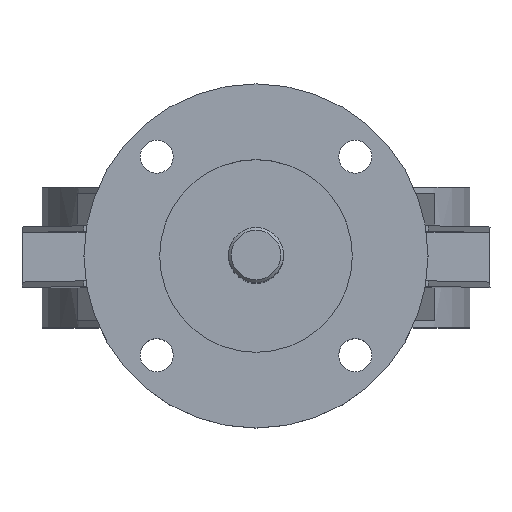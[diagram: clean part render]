
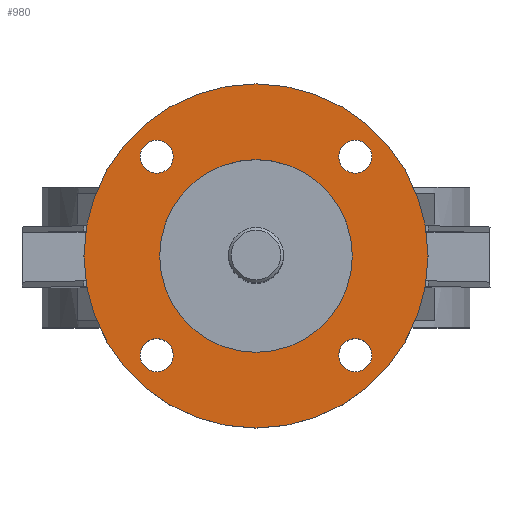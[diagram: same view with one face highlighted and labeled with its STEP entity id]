
A CAD part, top view. The second image highlights one B-rep face of the part: STEP entity #980.
In plain terms, the highlighted planar face has unit normal (0, 0, 1).
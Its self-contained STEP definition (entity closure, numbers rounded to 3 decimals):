
#980=ADVANCED_FACE('',(#2231,#2233,#2235,#2237,#2239,#2241),#2243,.T.);
#2231=FACE_BOUND('',#2232,.T.);
#2232=EDGE_LOOP('',(#3267));
#2233=FACE_BOUND('',#2234,.T.);
#2234=EDGE_LOOP('',(#3268));
#2235=FACE_BOUND('',#2236,.T.);
#2236=EDGE_LOOP('',(#3269));
#2237=FACE_BOUND('',#2238,.T.);
#2238=EDGE_LOOP('',(#3270));
#2239=FACE_BOUND('',#2240,.T.);
#2240=EDGE_LOOP('',(#3271));
#2241=FACE_BOUND('',#2242,.T.);
#2242=EDGE_LOOP('',(#3272));
#2243=PLANE('',#2244);
#2244=AXIS2_PLACEMENT_3D('',#2245,#2246,#2247);
#2245=CARTESIAN_POINT('',(0.,0.,378.));
#2246=DIRECTION('',(0.,0.,1.));
#2247=DIRECTION('',(-1.,0.,0.));
#3267=ORIENTED_EDGE('',*,*,#3683,.T.);
#3268=ORIENTED_EDGE('',*,*,#3684,.T.);
#3269=ORIENTED_EDGE('',*,*,#3685,.T.);
#3270=ORIENTED_EDGE('',*,*,#3686,.T.);
#3271=ORIENTED_EDGE('',*,*,#3807,.T.);
#3272=ORIENTED_EDGE('',*,*,#3687,.T.);
#3683=EDGE_CURVE('',#4259,#4259,#4260,.T.);
#3684=EDGE_CURVE('',#4261,#4261,#4262,.F.);
#3685=EDGE_CURVE('',#4263,#4263,#4264,.F.);
#3686=EDGE_CURVE('',#4265,#4265,#4266,.F.);
#3687=EDGE_CURVE('',#4267,#4267,#4268,.F.);
#3807=EDGE_CURVE('',#4474,#4474,#4475,.F.);
#4259=VERTEX_POINT('',#5477);
#4260=CIRCLE('',#5478,62.5);
#4261=VERTEX_POINT('',#5482);
#4262=CIRCLE('',#5483,6.);
#4263=VERTEX_POINT('',#5487);
#4264=CIRCLE('',#5488,6.);
#4265=VERTEX_POINT('',#5492);
#4266=CIRCLE('',#5493,6.);
#4267=VERTEX_POINT('',#5497);
#4268=CIRCLE('',#5498,6.);
#4474=VERTEX_POINT('',#6002);
#4475=CIRCLE('',#6003,35.);
#5477=CARTESIAN_POINT('',(-62.5,0.,378.));
#5478=AXIS2_PLACEMENT_3D('',#5479,#5480,#5481);
#5479=CARTESIAN_POINT('',(0.,0.,378.));
#5480=DIRECTION('',(0.,0.,1.));
#5481=DIRECTION('',(-1.,0.,0.));
#5482=CARTESIAN_POINT('',(-42.062,-36.062,378.));
#5483=AXIS2_PLACEMENT_3D('',#5484,#5485,#5486);
#5484=CARTESIAN_POINT('',(-36.062,-36.062,378.));
#5485=DIRECTION('',(0.,0.,1.));
#5486=DIRECTION('',(-1.,0.,0.));
#5487=CARTESIAN_POINT('',(36.062,-42.062,378.));
#5488=AXIS2_PLACEMENT_3D('',#5489,#5490,#5491);
#5489=CARTESIAN_POINT('',(36.062,-36.062,378.));
#5490=DIRECTION('',(0.,0.,1.));
#5491=DIRECTION('',(0.,-1.,0.));
#5492=CARTESIAN_POINT('',(42.062,36.062,378.));
#5493=AXIS2_PLACEMENT_3D('',#5494,#5495,#5496);
#5494=CARTESIAN_POINT('',(36.062,36.062,378.));
#5495=DIRECTION('',(0.,0.,1.));
#5496=DIRECTION('',(1.,0.,-0.));
#5497=CARTESIAN_POINT('',(-36.062,42.062,378.));
#5498=AXIS2_PLACEMENT_3D('',#5499,#5500,#5501);
#5499=CARTESIAN_POINT('',(-36.062,36.062,378.));
#5500=DIRECTION('',(0.,0.,1.));
#5501=DIRECTION('',(0.,1.,0.));
#6002=CARTESIAN_POINT('',(0.,35.,378.));
#6003=AXIS2_PLACEMENT_3D('',#6004,#6005,#6006);
#6004=CARTESIAN_POINT('',(0.,0.,378.));
#6005=DIRECTION('',(0.,0.,1.));
#6006=DIRECTION('',(0.,1.,0.));
